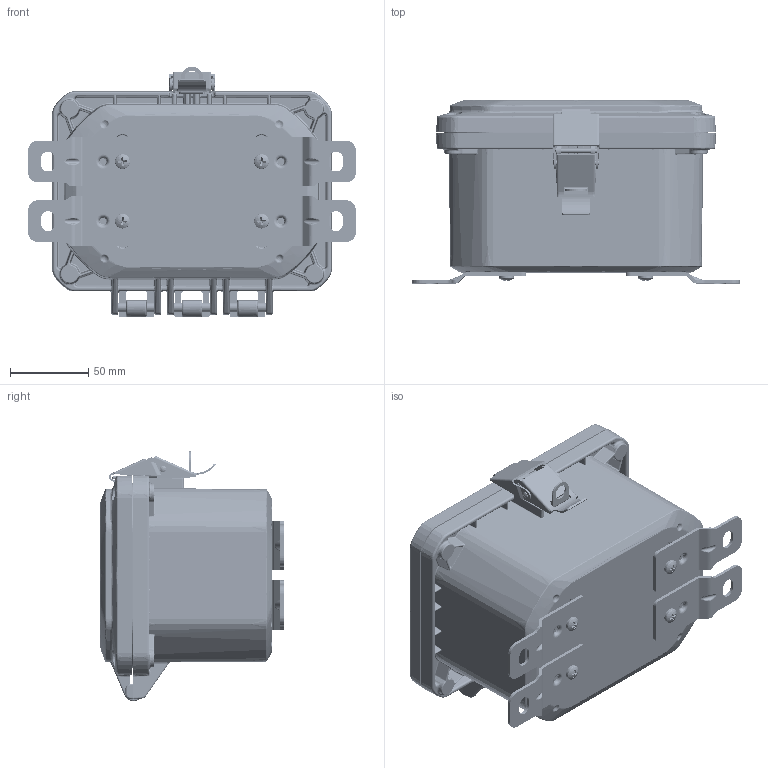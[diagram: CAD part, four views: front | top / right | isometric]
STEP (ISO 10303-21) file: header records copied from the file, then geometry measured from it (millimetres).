
FILE_DESCRIPTION (( 'STEP AP214' ), '1' );
FILE_NAME ('ZH-060404-42.STEP', '2024-10-25T16:27:43', ( '' ), ( '' ), 'SwSTEP 2.0', 'SolidWorks 2024', '' );
FILE_SCHEMA (( 'AUTOMOTIVE_DESIGN' ));
Length unit declared in the file: inch
Products named in the file (17): ZH-91F-01_ZH-91F-01; ZH-01L4; INSERTS-4; ZH-01L; ZH-01L5; Z_-06043BI_ZH-06043BI-01; ZH-060404-42; Z_-06041C_ZH-06041C-02; ZH-95P_DEFAULT; ZH-01L1; Z_-06041CG_ZH-06041CG-02; Z_-06043B_ZH-06043B-01; ZH-01L2; SCREWS-049_SCREWS-049; LABEL-104; ZH-01L3; ZH-0604G
Assembly tree (36 placements, depth 3):
  ZH-060404-42
    Z_-06043BI_ZH-06043BI-01
      Z_-06043B_ZH-06043B-01
      INSERTS-4  x12
      LABEL-104
    Z_-06041CG_ZH-06041CG-02
      Z_-06041C_ZH-06041C-02
      ZH-0604G
    ZH-95P_DEFAULT  x4
    ZH-01L
      ZH-01L1
      ZH-01L2
      ZH-01L3
      ZH-01L4
      ZH-01L5
    SCREWS-049_SCREWS-049  x4
    ZH-91F-01_ZH-91F-01  x4
Bounding box: 209.55 x 117.05 x 159.98 mm (x, y, z)
Volume: 490805.5 mm3; surface area: 297967 mm2
Topology: 37 solids, 37 shells, 6315 faces, 15362 edges, 9094 vertices
Faces by surface type: bspline 1943, plane 1492, cylinder 1238, torus 744, cone 652, sphere 246
Entity records: 217303 total; most frequent: CARTESIAN_POINT 122531, ORIENTED_EDGE 21760, DIRECTION 17558, EDGE_CURVE 10880, AXIS2_PLACEMENT_3D 7362, VERTEX_POINT 6341, EDGE_LOOP 4769, ADVANCED_FACE 4643
